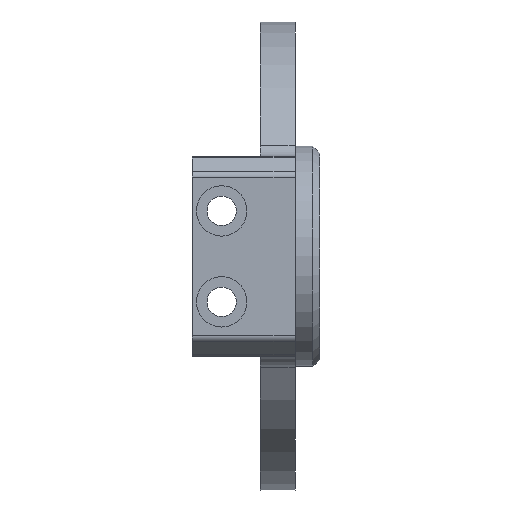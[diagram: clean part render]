
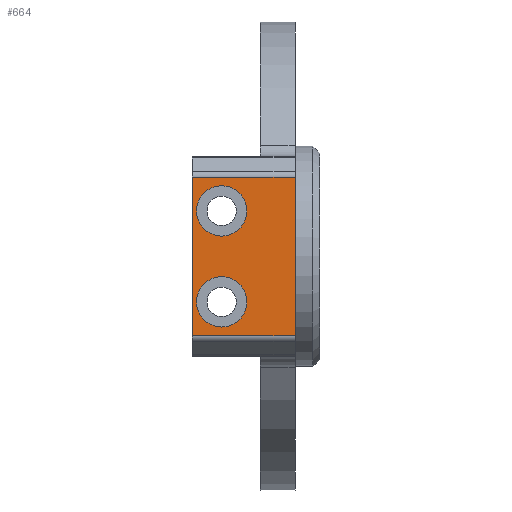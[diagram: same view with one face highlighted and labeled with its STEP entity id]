
A CAD part, left-side view. The second image highlights one B-rep face of the part: STEP entity #664.
In plain terms, the highlighted planar face has unit normal (-1, 0, 0).
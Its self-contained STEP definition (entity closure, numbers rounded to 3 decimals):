
#3 = EDGE_CURVE ( 'NONE', #1700, #426, #503, .T. ) ;
#41 = CARTESIAN_POINT ( 'NONE',  ( -46.5, 14.7, 14.3 ) ) ;
#205 = CARTESIAN_POINT ( 'NONE',  ( -46.5, 5., 14.3 ) ) ;
#254 = CARTESIAN_POINT ( 'NONE',  ( -46.5, 14.7, 11.334 ) ) ;
#257 = DIRECTION ( 'NONE',  ( 0., 0., 1. ) ) ;
#259 = EDGE_CURVE ( 'NONE', #2466, #485, #1331, .T. ) ;
#270 = AXIS2_PLACEMENT_3D ( 'NONE', #2659, #1543, #2945 ) ;
#276 = CARTESIAN_POINT ( 'NONE',  ( -46.5, 0., 11.334 ) ) ;
#293 = DIRECTION ( 'NONE',  ( 0., -1., 0. ) ) ;
#311 = EDGE_LOOP ( 'NONE', ( #1722, #2606, #1702, #1985 ) ) ;
#347 = EDGE_CURVE ( 'NONE', #485, #2466, #2741, .T. ) ;
#386 = FACE_BOUND ( 'NONE', #613, .T. ) ;
#426 = VERTEX_POINT ( 'NONE', #276 ) ;
#438 = ORIENTED_EDGE ( 'NONE', *, *, #259, .T. ) ;
#485 = VERTEX_POINT ( 'NONE', #962 ) ;
#503 = LINE ( 'NONE', #1704, #1337 ) ;
#519 = CARTESIAN_POINT ( 'NONE',  ( -46.5, 0., -11.334 ) ) ;
#535 = EDGE_CURVE ( 'NONE', #2519, #1700, #2597, .T. ) ;
#560 = CARTESIAN_POINT ( 'NONE',  ( -46.5, 0., -11.334 ) ) ;
#585 = EDGE_CURVE ( 'NONE', #2169, #1788, #1003, .T. ) ;
#613 = EDGE_LOOP ( 'NONE', ( #1973, #2486 ) ) ;
#651 = CARTESIAN_POINT ( 'NONE',  ( -46.5, 10.5, 6.5 ) ) ;
#664 = ADVANCED_FACE ( 'NONE', ( #1766, #386, #673 ), #2744, .F. ) ;
#673 = FACE_OUTER_BOUND ( 'NONE', #311, .T. ) ;
#682 = DIRECTION ( 'NONE',  ( 0., 0., -1. ) ) ;
#896 = CARTESIAN_POINT ( 'NONE',  ( -46.5, 10.5, -6.5 ) ) ;
#950 = AXIS2_PLACEMENT_3D ( 'NONE', #205, #2955, #1311 ) ;
#962 = CARTESIAN_POINT ( 'NONE',  ( -46.5, 10.5, -10.1 ) ) ;
#987 = EDGE_LOOP ( 'NONE', ( #438, #1949 ) ) ;
#1003 = CIRCLE ( 'NONE', #2258, 3.6 ) ;
#1143 = DIRECTION ( 'NONE',  ( 0., 1., 0. ) ) ;
#1154 = EDGE_CURVE ( 'NONE', #1788, #2169, #2697, .T. ) ;
#1165 = EDGE_CURVE ( 'NONE', #426, #2013, #1365, .T. ) ;
#1195 = CARTESIAN_POINT ( 'NONE',  ( -46.5, 14.7, -11.334 ) ) ;
#1254 = DIRECTION ( 'NONE',  ( 0., 0., 1. ) ) ;
#1311 = DIRECTION ( 'NONE',  ( 0., 0., -1. ) ) ;
#1331 = CIRCLE ( 'NONE', #270, 3.6 ) ;
#1337 = VECTOR ( 'NONE', #1254, 1000. ) ;
#1344 = CARTESIAN_POINT ( 'NONE',  ( -46.5, 10.5, 6.5 ) ) ;
#1365 = LINE ( 'NONE', #2571, #2361 ) ;
#1483 = CARTESIAN_POINT ( 'NONE',  ( -46.5, 10.5, 10.1 ) ) ;
#1543 = DIRECTION ( 'NONE',  ( 1., 0., 0. ) ) ;
#1566 = DIRECTION ( 'NONE',  ( 1., 0., 0. ) ) ;
#1583 = DIRECTION ( 'NONE',  ( 1., 0., 0. ) ) ;
#1676 = LINE ( 'NONE', #41, #2062 ) ;
#1700 = VERTEX_POINT ( 'NONE', #519 ) ;
#1702 = ORIENTED_EDGE ( 'NONE', *, *, #3, .T. ) ;
#1704 = CARTESIAN_POINT ( 'NONE',  ( -46.5, 0., 14.3 ) ) ;
#1722 = ORIENTED_EDGE ( 'NONE', *, *, #2983, .F. ) ;
#1766 = FACE_BOUND ( 'NONE', #987, .T. ) ;
#1786 = DIRECTION ( 'NONE',  ( 0., 0., -1. ) ) ;
#1788 = VERTEX_POINT ( 'NONE', #2616 ) ;
#1834 = CARTESIAN_POINT ( 'NONE',  ( -46.5, 10.5, -2.9 ) ) ;
#1907 = DIRECTION ( 'NONE',  ( 0., 0., 1. ) ) ;
#1949 = ORIENTED_EDGE ( 'NONE', *, *, #347, .T. ) ;
#1973 = ORIENTED_EDGE ( 'NONE', *, *, #585, .T. ) ;
#1985 = ORIENTED_EDGE ( 'NONE', *, *, #1165, .T. ) ;
#2013 = VERTEX_POINT ( 'NONE', #254 ) ;
#2062 = VECTOR ( 'NONE', #1907, 1000. ) ;
#2168 = AXIS2_PLACEMENT_3D ( 'NONE', #896, #2521, #257 ) ;
#2169 = VERTEX_POINT ( 'NONE', #1483 ) ;
#2215 = AXIS2_PLACEMENT_3D ( 'NONE', #651, #1583, #682 ) ;
#2258 = AXIS2_PLACEMENT_3D ( 'NONE', #1344, #1566, #1786 ) ;
#2307 = VECTOR ( 'NONE', #293, 1000. ) ;
#2361 = VECTOR ( 'NONE', #1143, 1000. ) ;
#2466 = VERTEX_POINT ( 'NONE', #1834 ) ;
#2486 = ORIENTED_EDGE ( 'NONE', *, *, #1154, .T. ) ;
#2519 = VERTEX_POINT ( 'NONE', #1195 ) ;
#2521 = DIRECTION ( 'NONE',  ( 1., 0., 0. ) ) ;
#2571 = CARTESIAN_POINT ( 'NONE',  ( -46.5, 14.7, 11.334 ) ) ;
#2597 = LINE ( 'NONE', #560, #2307 ) ;
#2606 = ORIENTED_EDGE ( 'NONE', *, *, #535, .T. ) ;
#2616 = CARTESIAN_POINT ( 'NONE',  ( -46.5, 10.5, 2.9 ) ) ;
#2659 = CARTESIAN_POINT ( 'NONE',  ( -46.5, 10.5, -6.5 ) ) ;
#2697 = CIRCLE ( 'NONE', #2215, 3.6 ) ;
#2741 = CIRCLE ( 'NONE', #2168, 3.6 ) ;
#2744 = PLANE ( 'NONE',  #950 ) ;
#2945 = DIRECTION ( 'NONE',  ( 0., 0., 1. ) ) ;
#2955 = DIRECTION ( 'NONE',  ( 1., 0., 0. ) ) ;
#2983 = EDGE_CURVE ( 'NONE', #2519, #2013, #1676, .T. ) ;
